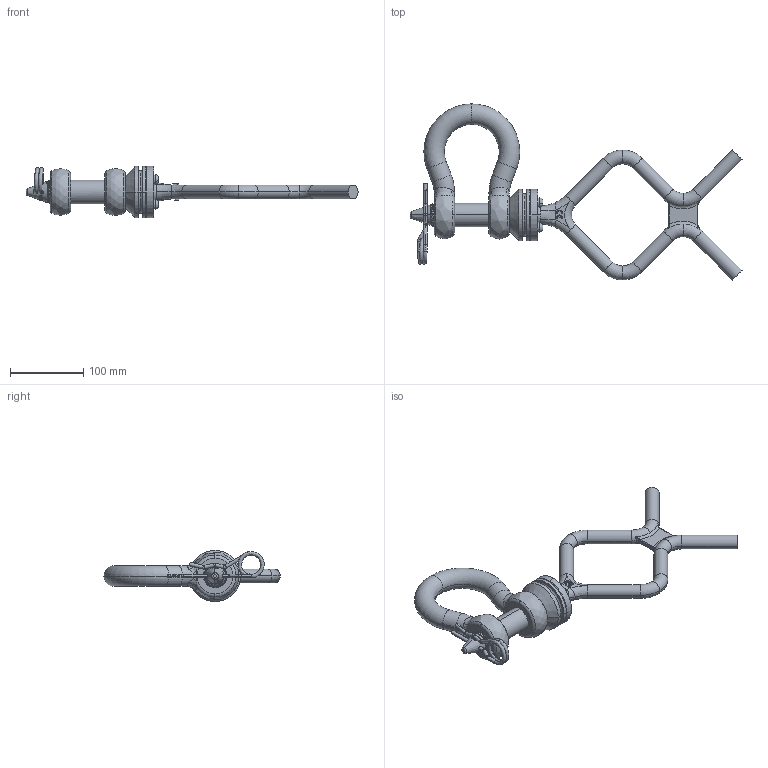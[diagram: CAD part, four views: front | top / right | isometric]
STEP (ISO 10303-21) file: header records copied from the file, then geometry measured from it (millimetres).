
FILE_DESCRIPTION(('STEP AP203'),'1');
FILE_NAME('poghbb28rovrltf.stp','2026-07-23T16:57:23',('TraceParts'),('TraceParts S.A.S.'),'Spatial InterOp 3D',' ',' ');
FILE_SCHEMA(('CONFIG_CONTROL_DESIGN'));
Length unit declared in the file: millimetre
Products named in the file (1): 1
Bounding box: 454.25 x 241.1 x 70 mm (x, y, z)
Volume: 726303.2 mm3; surface area: 141843.1 mm2
Topology: 12 solids, 12 shells, 1022 faces, 2700 edges, 1726 vertices
Faces by surface type: plane 364, bspline 304, cylinder 184, torus 114, cone 56
Entity records: 68457 total; most frequent: CARTESIAN_POINT 45116, ORIENTED_EDGE 5336, DIRECTION 4151, EDGE_CURVE 2668, VERTEX_POINT 1726, AXIS2_PLACEMENT_3D 1542, EDGE_LOOP 1104, LINE 1067
